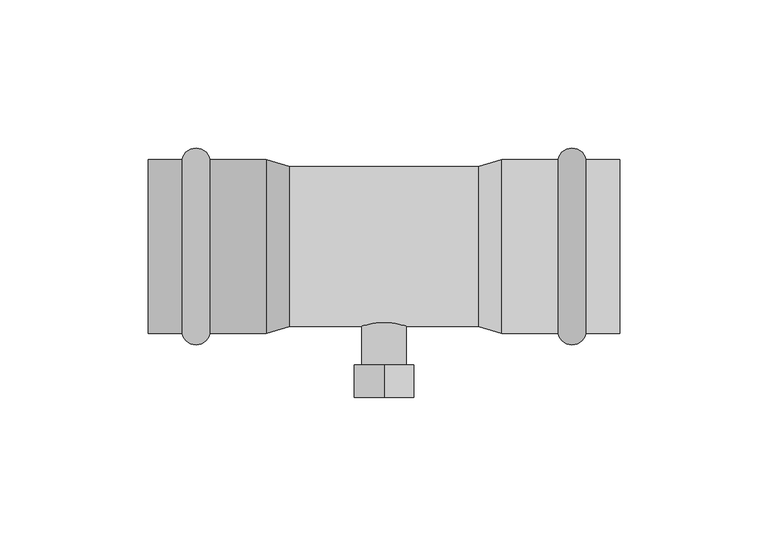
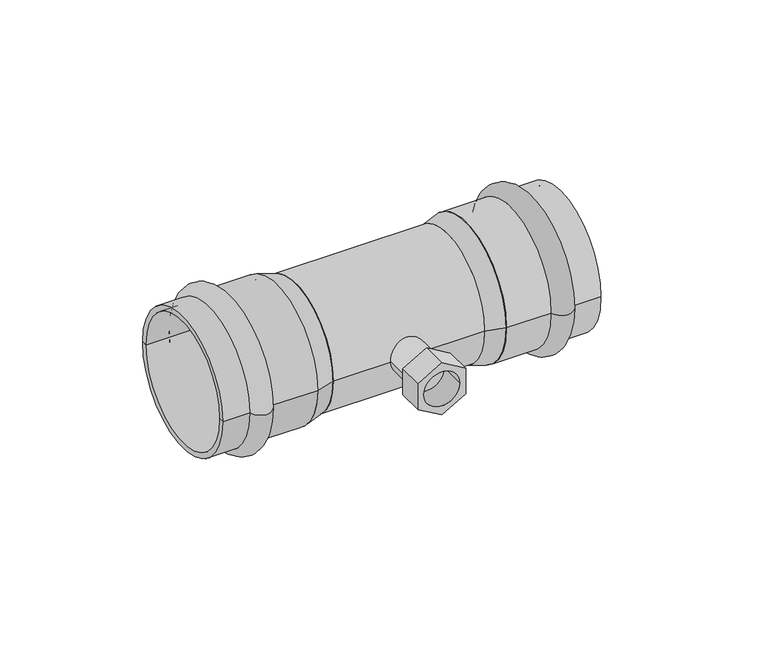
"""IFC4 building model written with IfcOpenShell, lengths in millimetres: pipe fitting geometry, VALTEC_VTi.932.I_Тройник с переходом на внутреннюю резьбу нержавеющая сталь : VTi.932.I."""

import ifcopenshell
import ifcopenshell.guid

model = None  # the IFC model being written
_history = None  # IfcOwnerHistory: only IFC2X3 demands one
_inside = {}  # id of a spatial element -> (the spatial element, [elements in it])
_under = {}  # id of a project, library or spatial element -> (it, [spatial elements below it])
_declared = {}  # id of a project -> (the project, [libraries it declares])
_typed = {}  # id of a type object -> (the type object, [elements of that type])
_made_of = {}  # id of a material, layer set ... -> (it, [elements and type objects made of it])


def new_model(schema):
    """Start an empty IFC model of exactly this schema.

    Asked for "IFC4X3", IfcOpenShell would pick the latest addendum, in which some entities
    have other attributes; the version numbers below select the first issue.
    IFC2X3 requires an IfcOwnerHistory on every rooted entity: one is made here for all.
    """
    global model, _history
    if schema == "IFC4X3":
        model = ifcopenshell.file(schema_version=(4, 3, 0, 0))
    else:
        model = ifcopenshell.file(schema=schema)
    _inside.clear()
    _under.clear()
    _declared.clear()
    _typed.clear()
    _made_of.clear()
    _history = None
    if model.schema == "IFC2X3":
        org = make("IfcOrganization", Name="unknown")
        user = make(
            "IfcPersonAndOrganization",
            ThePerson=make("IfcPerson", FamilyName="unknown"),
            TheOrganization=org,
        )
        app = make(
            "IfcApplication",
            ApplicationDeveloper=org,
            Version="unknown",
            ApplicationFullName="unknown",
            ApplicationIdentifier="unknown",
        )
        _history = make(
            "IfcOwnerHistory",
            OwningUser=user,
            OwningApplication=app,
            ChangeAction="ADDED",
            CreationDate=0,
        )
    return model


def make(cls, **values):
    """One entity of the class cls with the attributes given. An attribute that is None is left unset."""
    return model.create_entity(
        cls, **{name: value for name, value in values.items() if value is not None}
    )


def rooted(cls, **values):
    """An entity with a GlobalId (a new one), such as an element, a storey or a relation."""
    return make(cls, GlobalId=ifcopenshell.guid.new(), OwnerHistory=_history, **values)


def si_unit(unit_type, name, prefix=None):
    """IfcSIUnit, for example si_unit("LENGTHUNIT", "METRE", prefix="MILLI")."""
    return make("IfcSIUnit", UnitType=unit_type, Prefix=prefix, Name=name)


def assignment(units):
    """IfcUnitAssignment: the units of a project."""
    return None if units is None else make("IfcUnitAssignment", Units=units)


def point(xyz):
    """IfcCartesianPoint."""
    return None if xyz is None else make("IfcCartesianPoint", Coordinates=xyz)


def direction(xyz):
    """IfcDirection."""
    return None if xyz is None else make("IfcDirection", DirectionRatios=xyz)


def frame(location, z_axis=None, x_axis=None):
    """IfcAxis2Placement3D, a coordinate frame: its origin and axes. An axis left out is left unset."""
    return make(
        "IfcAxis2Placement3D",
        Location=point(location),
        Axis=direction(z_axis),
        RefDirection=direction(x_axis),
    )


def frame_2d(location, x_axis=None):
    """IfcAxis2Placement2D, a coordinate frame in the plane: its origin and x axis."""
    return make(
        "IfcAxis2Placement2D", Location=point(location), RefDirection=direction(x_axis)
    )


def origin():
    """The frame at (0, 0, 0) with its axes left unset."""
    return frame((0.0, 0.0, 0.0))


def origin_2d():
    """The frame at (0, 0) in the plane with its x axis left unset."""
    return frame_2d((0.0, 0.0))


def place(relative_to, where):
    """IfcLocalPlacement: puts the frame where relative to a parent placement (None: the world)."""
    return make(
        "IfcLocalPlacement", PlacementRelTo=relative_to, RelativePlacement=where
    )


def context(
    kind, dimensions, precision=None, world=None, true_north=None, identifier=None
):
    """IfcGeometricRepresentationContext, for example the 3D "Model" context."""
    return make(
        "IfcGeometricRepresentationContext",
        ContextIdentifier=identifier,
        ContextType=kind,
        CoordinateSpaceDimension=dimensions,
        Precision=precision,
        WorldCoordinateSystem=world,
        TrueNorth=true_north,
    )


def project(units=None, contexts=None):
    """IfcProject with its units and contexts."""
    return rooted(
        "IfcProject",
        Name="project",
        RepresentationContexts=contexts,
        UnitsInContext=assignment(units),
    )


def spatial(cls, under=None, at=None, **own):
    """A site, building, storey or space (cls), placed at a placement, below another one or the project."""
    s = rooted(cls, ObjectPlacement=at, **own)
    if under is not None:
        _under.setdefault(under.id(), (under, []))[1].append(s)
    return s


def polyline(points):
    """IfcPolyline through the points."""
    return make("IfcPolyline", Points=[point(p) for p in points])


def circle_curve(where, radius):
    """IfcCircle in the frame where."""
    return make("IfcCircle", Position=where, Radius=radius)


def ellipse_curve(where, semi_axis1, semi_axis2):
    """IfcEllipse in the frame where."""
    return make(
        "IfcEllipse", Position=where, SemiAxis1=semi_axis1, SemiAxis2=semi_axis2
    )


def trimmed(basis, trim1, trim2, sense, master):
    """IfcTrimmedCurve: the piece of a basis curve between two trims."""
    return make(
        "IfcTrimmedCurve",
        BasisCurve=basis,
        Trim1=trim1,
        Trim2=trim2,
        SenseAgreement=sense,
        MasterRepresentation=master,
    )


def segment(curve, same_sense, transition):
    """IfcCompositeCurveSegment."""
    return make(
        "IfcCompositeCurveSegment",
        Transition=transition,
        SameSense=same_sense,
        ParentCurve=curve,
    )


def composite_curve(segments, self_intersect=None):
    """IfcCompositeCurve: segments joined end to end."""
    return make("IfcCompositeCurve", Segments=segments, SelfIntersect=self_intersect)


def outline(outer, holes=None, kind="AREA"):
    """IfcArbitraryClosedProfileDef: a profile drawn as a closed curve; with holes, ...WithVoids."""
    if holes is None:
        return make("IfcArbitraryClosedProfileDef", ProfileType=kind, OuterCurve=outer)
    return make(
        "IfcArbitraryProfileDefWithVoids",
        ProfileType=kind,
        OuterCurve=outer,
        InnerCurves=holes,
    )


def extrude(swept, where, along, depth):
    """IfcExtrudedAreaSolid: the profile swept, set in the frame where, extruded along a direction by depth."""
    return make(
        "IfcExtrudedAreaSolid",
        SweptArea=swept,
        Position=where,
        ExtrudedDirection=direction(along),
        Depth=depth,
    )


def shape(context_of_items, identifier, shape_type, items):
    """IfcShapeRepresentation: the items that make up one representation, for example the "Body"."""
    return make(
        "IfcShapeRepresentation",
        ContextOfItems=context_of_items,
        RepresentationIdentifier=identifier,
        RepresentationType=shape_type,
        Items=items,
    )


def source(mapping_origin, context_of_items, identifier, shape_type, items):
    """IfcRepresentationMap: a shape defined once, which mapped items show again and again."""
    return make(
        "IfcRepresentationMap",
        MappingOrigin=mapping_origin,
        MappedRepresentation=shape(context_of_items, identifier, shape_type, items),
    )


def transform(
    local_origin,
    x_axis=None,
    y_axis=None,
    z_axis=None,
    scale=None,
    scale2=None,
    scale3=None,
    uniform=True,
):
    """IfcCartesianTransformationOperator3D, or its non-uniform kind. x_axis, y_axis, z_axis: its Axis1, 2, 3."""
    if uniform:
        return make(
            "IfcCartesianTransformationOperator3D",
            Axis1=direction(x_axis),
            Axis2=direction(y_axis),
            LocalOrigin=point(local_origin),
            Scale=scale,
            Axis3=direction(z_axis),
        )
    return make(
        "IfcCartesianTransformationOperator3DnonUniform",
        Axis1=direction(x_axis),
        Axis2=direction(y_axis),
        LocalOrigin=point(local_origin),
        Scale=scale,
        Axis3=direction(z_axis),
        Scale2=scale2,
        Scale3=scale3,
    )


def mapped(mapping_source, mapping_target):
    """IfcMappedItem: shows the shape of a source again, moved by a transform."""
    return make(
        "IfcMappedItem", MappingSource=mapping_source, MappingTarget=mapping_target
    )


def made_of(thing, what):
    """Note that an element or type object is made of a material, layer set ...; save() writes the relation."""
    if what is not None:
        _made_of.setdefault(what.id(), (what, []))[1].append(thing)
    return thing


def element(
    cls,
    number,
    at=None,
    inside=None,
    cuts=None,
    type_object=None,
    material=None,
    context=None,
    identifier="Body",
    shape_type=None,
    held_by="IfcProductDefinitionShape",
    body=None,
    shapes=None,
    **own,
):
    """One element of the class cls, such as IfcWall. Its Tag is "e" and its number.

    at: its placement. inside: the storey or other place that contains it. cuts: it is an
    opening in that element (IfcRelVoidsElement). A single representation is given by context,
    identifier, shape_type and body (its items); several are given by shapes. held_by: the class
    of the entity that holds the representations. save() writes the other relations.
    """
    e = rooted(cls, Tag="e%d" % number, ObjectPlacement=at, **own)
    if body is not None:
        shapes = [shape(context, identifier, shape_type, body)]
    if shapes is not None:
        e.Representation = make(held_by, Representations=shapes)
    if inside is not None:
        _inside.setdefault(inside.id(), (inside, []))[1].append(e)
    if cuts is not None:
        rooted(
            "IfcRelVoidsElement", RelatingBuildingElement=cuts, RelatedOpeningElement=e
        )
    if type_object is not None:
        _typed.setdefault(type_object.id(), (type_object, []))[1].append(e)
    return made_of(e, material)


def aggregate(whole, parts):
    """IfcRelAggregates: a whole, such as a stair, and the parts it consists of."""
    return rooted("IfcRelAggregates", RelatingObject=whole, RelatedObjects=parts)


def save(model, path):
    """Write the relations noted so far, then the file.

    IfcRelAggregates (storeys below a building ...), IfcRelContainedInSpatialStructure (elements
    in a storey), IfcRelDefinesByType, IfcRelAssociatesMaterial and IfcRelDeclares: one each for
    every whole, place, type object, material and project.
    """
    for whole, parts in _under.values():
        aggregate(whole, parts)
    for where, things in _inside.values():
        rooted(
            "IfcRelContainedInSpatialStructure",
            RelatedElements=things,
            RelatingStructure=where,
        )
    for kind, things in _typed.values():
        rooted("IfcRelDefinesByType", RelatedObjects=things, RelatingType=kind)
    for what, things in _made_of.values():
        rooted("IfcRelAssociatesMaterial", RelatedObjects=things, RelatingMaterial=what)
    for by, libraries in _declared.values():
        rooted("IfcRelDeclares", RelatingContext=by, RelatedDefinitions=libraries)
    model.write(path)


def plane_surface(at):
    """IfcPlane: the flat surface through the origin of the frame at, square to its z axis."""
    return make("IfcPlane", Position=at)


def cylinder_surface(at, radius):
    """IfcCylindricalSurface: all points at the distance radius from the z axis of the frame at."""
    return make("IfcCylindricalSurface", Position=at, Radius=radius)


def revolved_surface(curve, axis_point, axis_direction):
    """IfcSurfaceOfRevolution: the curve turned about the line through axis_point along axis_direction."""
    return make(
        "IfcSurfaceOfRevolution",
        SweptCurve=make("IfcArbitraryOpenProfileDef", ProfileType="CURVE", Curve=curve),
        AxisPosition=make("IfcAxis1Placement", Location=point(axis_point), Axis=direction(axis_direction)),
    )


def advanced_brep(points, edges, surfaces, faces):
    """IfcAdvancedBrep: a solid bounded by faces that lie on surfaces and meet in shared edges.

    An edge is (start, end): straight between two places in points (the first is 0);
    or (start, end, curve); or (start, end, curve, False) where it runs against its curve.
    A face is (place in surfaces, loops), or (place, loops, False) where it looks against
    its surface's normal. A loop lists edges by number (the first is 1), with a minus sign
    where the edge is run from its end to its start. The first loop is the outer one.
    """
    corners = [point(p) for p in points]
    vertices = [make("IfcVertexPoint", VertexGeometry=c) for c in corners]
    made = []
    for start, end, *more in edges:
        made.append(
            make(
                "IfcEdgeCurve",
                EdgeStart=vertices[start],
                EdgeEnd=vertices[end],
                EdgeGeometry=more[0] if more else make("IfcPolyline", Points=[corners[start], corners[end]]),
                SameSense=more[1] if len(more) > 1 else True,
            )
        )
    hull = []
    for where, loops, *sense in faces:
        bounds = []
        for j, loop in enumerate(loops):
            ring = [make("IfcOrientedEdge", EdgeElement=made[abs(k) - 1], Orientation=k > 0) for k in loop]
            bounds.append(
                make(
                    "IfcFaceOuterBound" if j == 0 else "IfcFaceBound",
                    Bound=make("IfcEdgeLoop", EdgeList=ring),
                    Orientation=True,
                )
            )
        hull.append(make("IfcAdvancedFace", Bounds=bounds, FaceSurface=surfaces[where], SameSense=sense[0] if sense else True))
    return make("IfcAdvancedBrep", Outer=make("IfcClosedShell", CfsFaces=hull))


def pipe_fitting_01ebce86(model_context):
    return source(origin(), model_context, "Body", "SolidModel", [
        advanced_brep(
        [(68.1148701, 29.3, 0.0), (68.1148701, -29.3, 0.0), (58.6851299, -29.3, 0.0), (58.6851299, 29.3, 0.0), (79.5, 29.3, 0.0), (79.5, -29.3, 0.0), (79.5, 27.0, 0.0), (79.5, -27.0, 0.0), (39.75, 27.0, 0.0), (39.75, -27.0, 0.0), (39.75, 29.3, 0.0), (39.75, -29.3, 0.0)],
        [
            (0, 1, circle_curve(frame((68.1148701, 0.0, 0.0), z_axis=(-1.0, 0.0, 0.0), x_axis=(0.0, -1.0, 0.0)), 29.3)),
            (1, 2, circle_curve(frame((63.4, -28.4, 0.0), z_axis=(0.0, 0.0, -1.0), x_axis=(-1.0, 0.0, 0.0)), 4.8)),
            (2, 3, circle_curve(frame((58.6851299, 0.0, 0.0), z_axis=(1.0, 0.0, 0.0), x_axis=(0.0, -1.0, 0.0)), 29.3)),
            (3, 0, circle_curve(frame((63.4, 28.4, 0.0), z_axis=(0.0, 0.0, -1.0), x_axis=(-1.0, 0.0, 0.0)), 4.8)),
            (1, 0, circle_curve(frame((68.1148701, 0.0, 0.0), z_axis=(-1.0, 0.0, 0.0), x_axis=(0.0, -1.0, 0.0)), 29.3)),
            (3, 2, circle_curve(frame((58.6851299, 0.0, 0.0), z_axis=(1.0, 0.0, 0.0), x_axis=(0.0, -1.0, 0.0)), 29.3)),
            (4, 5, circle_curve(frame((79.5, 0.0, 0.0), z_axis=(-1.0, 0.0, 0.0), x_axis=(0.0, -1.0, 0.0)), 29.3)),
            (5, 1),
            (0, 4),
            (5, 4, circle_curve(frame((79.5, 0.0, 0.0), z_axis=(-1.0, 0.0, 0.0), x_axis=(0.0, -1.0, 0.0)), 29.3)),
            (6, 7, circle_curve(frame((79.5, 0.0, 0.0), z_axis=(-1.0, 0.0, 0.0), x_axis=(0.0, -1.0, 0.0)), 27.0)),
            (7, 5),
            (4, 6),
            (7, 6, circle_curve(frame((79.5, 0.0, 0.0), z_axis=(-1.0, 0.0, 0.0), x_axis=(0.0, -1.0, 0.0)), 27.0)),
            (8, 9, circle_curve(frame((39.75, 0.0, 0.0), z_axis=(-1.0, 0.0, 0.0), x_axis=(0.0, -1.0, 0.0)), 27.0)),
            (9, 7),
            (6, 8),
            (9, 8, circle_curve(frame((39.75, 0.0, 0.0), z_axis=(-1.0, 0.0, 0.0), x_axis=(0.0, -1.0, 0.0)), 27.0)),
            (10, 11, circle_curve(frame((39.75, 0.0, 0.0), z_axis=(-1.0, 0.0, 0.0), x_axis=(0.0, -1.0, 0.0)), 29.3)),
            (11, 9),
            (8, 10),
            (11, 10, circle_curve(frame((39.75, 0.0, 0.0), z_axis=(-1.0, 0.0, 0.0), x_axis=(0.0, -1.0, 0.0)), 29.3)),
            (2, 11),
            (10, 3),
        ],
        [
            revolved_surface(trimmed(ellipse_curve(frame((63.4, -28.4, 0.0), z_axis=(0.0, 0.0, 1.0), x_axis=(-1.0, 0.0, 0.0)), 4.8, 4.8), [point((58.6851299, -29.3, 0.0))], [point((68.1148701, -29.3, 0.0))], True, "CARTESIAN"), (83.0364426, 0.0, 0.0), (1.0, 0.0, 0.0)),
            cylinder_surface(frame((83.0364426, 0.0, 0.0), z_axis=(1.0, 0.0, 0.0), x_axis=(0.0, -1.0, 0.0)), 29.3),
            plane_surface(frame((79.5, 0.0, 0.0), z_axis=(1.0, 0.0, 0.0), x_axis=(0.0, -1.0, 0.0))),
            revolved_surface(polyline([(79.5, -27.0, 0.0), (39.75, -27.0, 0.0)]), (83.0364426, 0.0, 0.0), (1.0, 0.0, 0.0)),
            plane_surface(frame((39.75, 0.0, 0.0), z_axis=(-1.0, 0.0, 0.0), x_axis=(0.0, -1.0, 0.0))),
        ],
        [
            (0, [[1, 2, 3, 4]]),
            (0, [[5, -4, 6, -2]]),
            (1, [[7, 8, -1, 9]]),
            (1, [[10, -9, -5, -8]]),
            (2, [[11, 12, -7, 13]]),
            (2, [[14, -13, -10, -12]]),
            (3, [[15, 16, -11, 17]]),
            (3, [[18, -17, -14, -16]]),
            (4, [[19, 20, -15, 21]]),
            (4, [[22, -21, -18, -20]]),
            (1, [[-3, 23, -19, 24]]),
            (1, [[-6, -24, -22, -23]]),
        ],
    ),
        advanced_brep(
        [(-68.1148701, -29.3, 0.0), (-68.1148701, 29.3, 0.0), (-58.6851299, 29.3, 0.0), (-58.6851299, -29.3, 0.0), (-79.5, -29.3, 0.0), (-79.5, 29.3, 0.0), (-79.5, -27.0, 0.0), (-79.5, 27.0, 0.0), (-39.75, -27.0, 0.0), (-39.75, 27.0, 0.0), (-39.75, -29.3, 0.0), (-39.75, 29.3, 0.0)],
        [
            (0, 1, circle_curve(frame((-68.1148701, 0.0, 0.0), z_axis=(1.0, 0.0, 0.0), x_axis=(0.0, 1.0, 0.0)), 29.3)),
            (1, 2, circle_curve(frame((-63.4, 28.4, 0.0), z_axis=(0.0, 0.0, -1.0), x_axis=(1.0, 0.0, 0.0)), 4.8)),
            (2, 3, circle_curve(frame((-58.6851299, 0.0, 0.0), z_axis=(-1.0, 0.0, 0.0), x_axis=(0.0, 1.0, 0.0)), 29.3)),
            (3, 0, circle_curve(frame((-63.4, -28.4, 0.0), z_axis=(0.0, 0.0, -1.0), x_axis=(1.0, 0.0, 0.0)), 4.8)),
            (1, 0, circle_curve(frame((-68.1148701, 0.0, 0.0), z_axis=(1.0, 0.0, 0.0), x_axis=(0.0, 1.0, 0.0)), 29.3)),
            (3, 2, circle_curve(frame((-58.6851299, 0.0, 0.0), z_axis=(-1.0, 0.0, 0.0), x_axis=(0.0, 1.0, 0.0)), 29.3)),
            (4, 5, circle_curve(frame((-79.5, 0.0, 0.0), z_axis=(1.0, 0.0, 0.0), x_axis=(0.0, 1.0, 0.0)), 29.3)),
            (5, 1),
            (0, 4),
            (5, 4, circle_curve(frame((-79.5, 0.0, 0.0), z_axis=(1.0, 0.0, 0.0), x_axis=(0.0, 1.0, 0.0)), 29.3)),
            (6, 7, circle_curve(frame((-79.5, 0.0, 0.0), z_axis=(1.0, 0.0, 0.0), x_axis=(0.0, 1.0, 0.0)), 27.0)),
            (7, 5),
            (4, 6),
            (7, 6, circle_curve(frame((-79.5, 0.0, 0.0), z_axis=(1.0, 0.0, 0.0), x_axis=(0.0, 1.0, 0.0)), 27.0)),
            (8, 9, circle_curve(frame((-39.75, 0.0, 0.0), z_axis=(1.0, 0.0, 0.0), x_axis=(0.0, 1.0, 0.0)), 27.0)),
            (9, 7),
            (6, 8),
            (9, 8, circle_curve(frame((-39.75, 0.0, 0.0), z_axis=(1.0, 0.0, 0.0), x_axis=(0.0, 1.0, 0.0)), 27.0)),
            (10, 11, circle_curve(frame((-39.75, 0.0, 0.0), z_axis=(1.0, 0.0, 0.0), x_axis=(0.0, 1.0, 0.0)), 29.3)),
            (11, 9),
            (8, 10),
            (11, 10, circle_curve(frame((-39.75, 0.0, 0.0), z_axis=(1.0, 0.0, 0.0), x_axis=(0.0, 1.0, 0.0)), 29.3)),
            (2, 11),
            (10, 3),
        ],
        [
            revolved_surface(trimmed(ellipse_curve(frame((-63.4, 28.4, 0.0), z_axis=(0.0, 0.0, 1.0), x_axis=(1.0, 0.0, 0.0)), 4.8, 4.8), [point((-58.6851299, 29.3, 0.0))], [point((-68.1148701, 29.3, 0.0))], True, "CARTESIAN"), (-83.0364426, 0.0, 0.0), (-1.0, 0.0, 0.0)),
            cylinder_surface(frame((-83.0364426, 0.0, 0.0), z_axis=(-1.0, 0.0, 0.0), x_axis=(0.0, 1.0, 0.0)), 29.3),
            plane_surface(frame((-79.5, 0.0, 0.0), z_axis=(-1.0, 0.0, 0.0), x_axis=(0.0, 1.0, 0.0))),
            revolved_surface(polyline([(-79.5, 27.0, 0.0), (-39.75, 27.0, 0.0)]), (-83.0364426, 0.0, 0.0), (-1.0, 0.0, 0.0)),
            plane_surface(frame((-39.75, 0.0, 0.0), z_axis=(1.0, 0.0, 0.0), x_axis=(0.0, 1.0, 0.0))),
        ],
        [
            (0, [[1, 2, 3, 4]]),
            (0, [[5, -4, 6, -2]]),
            (1, [[7, 8, -1, 9]]),
            (1, [[10, -9, -5, -8]]),
            (2, [[11, 12, -7, 13]]),
            (2, [[14, -13, -10, -12]]),
            (3, [[15, 16, -11, 17]]),
            (3, [[18, -17, -14, -16]]),
            (4, [[19, 20, -15, 21]]),
            (4, [[22, -21, -18, -20]]),
            (1, [[-3, 23, -19, 24]]),
            (1, [[-6, -24, -22, -23]]),
        ],
    ),
        extrude(outline(polyline([(11.5470054, 0.0), (5.7735027, -10.0), (-5.7735027, -10.0), (-11.5470054, 0.0), (-5.7735027, 10.0), (5.7735027, 10.0), (11.5470054, 0.0)]), holes=[composite_curve([segment(trimmed(circle_curve(origin_2d(), 7.5), [point((0.0, -7.5))], [point((0.0, 7.5))], True, "CARTESIAN"), True, "CONTINUOUS"), segment(trimmed(circle_curve(origin_2d(), 7.5), [point((0.0, 7.5))], [point((0.0, -7.5))], True, "CARTESIAN"), True, "CONTINUOUS")], self_intersect=False)]), frame((0.0, -51.0, 0.0), z_axis=(0.0, 1.0, 0.0), x_axis=(0.0, 0.0, 1.0)), (0.0, 0.0, 1.0), 11.0),
        extrude(outline(composite_curve([segment(trimmed(circle_curve(origin_2d(), 7.5), [point((0.0, -7.5))], [point((0.0, 7.5))], False, "CARTESIAN"), True, "CONTINUOUS"), segment(trimmed(circle_curve(origin_2d(), 7.5), [point((0.0, 7.5))], [point((0.0, -7.5))], False, "CARTESIAN"), True, "CONTINUOUS")], self_intersect=False)), frame((0.0, -40.0, 0.0), z_axis=(0.0, 1.0, 0.0), x_axis=(0.0, 0.0, 1.0)), (0.0, 0.0, 1.0), 40.0),
        extrude(outline(composite_curve([segment(trimmed(circle_curve(origin_2d(), 27.0), [point((-27.0, 0.0))], [point((27.0, 0.0))], False, "CARTESIAN"), True, "CONTINUOUS"), segment(trimmed(circle_curve(origin_2d(), 27.0), [point((27.0, 0.0))], [point((-27.0, 0.0))], False, "CARTESIAN"), True, "CONTINUOUS")], self_intersect=False)), frame((-31.8, 0.0, 0.0), z_axis=(1.0, 0.0, 0.0), x_axis=(0.0, 1.0, 0.0)), (0.0, 0.0, 1.0), 63.6),
        advanced_brep(
        [(39.75, -29.3, 0.0), (39.75, 29.3, 0.0), (31.8, -27.0, 0.0), (31.8, 27.0, 0.0)],
        [
            (0, 1, circle_curve(frame((39.75, 0.0, 0.0), z_axis=(1.0, 0.0, 0.0), x_axis=(0.0, -1.0, 0.0)), 29.3)),
            (1, 0, circle_curve(frame((39.75, 0.0, 0.0), z_axis=(1.0, 0.0, 0.0), x_axis=(0.0, 1.0, 0.0)), 29.3)),
            (2, 3, circle_curve(frame((31.8, 0.0, 0.0), z_axis=(-1.0, 0.0, 0.0), x_axis=(0.0, 1.0, 0.0)), 27.0)),
            (3, 2, circle_curve(frame((31.8, 0.0, 0.0), z_axis=(-1.0, 0.0, 0.0), x_axis=(0.0, -1.0, 0.0)), 27.0)),
            (3, 1),
            (0, 2),
        ],
        [
            plane_surface(frame((39.75, 0.0, 0.0), z_axis=(1.0, 0.0, 0.0), x_axis=(0.0, 0.0, 1.0))),
            plane_surface(frame((31.8, 0.0, 0.0), z_axis=(-1.0, 0.0, 0.0), x_axis=(0.0, 0.0, 1.0))),
            revolved_surface(polyline([(31.800000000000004, 27.000000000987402, 0.0), (39.74999999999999, 29.3, 0.0)]), (-61.526087, 0.0, 0.0), (1.0, 0.0, 0.0)),
            revolved_surface(polyline([(31.800000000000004, -27.000000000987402, 0.0), (39.74999999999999, -29.3, 0.0)]), (-61.526087, 0.0, 0.0), (1.0, 0.0, 0.0)),
        ],
        [
            (0, [[1, 2]]),
            (1, [[3, 4]]),
            (2, [[-4, 5, -1, 6]]),
            (3, [[-3, -6, -2, -5]]),
        ],
    ),
        advanced_brep(
        [(-39.75, -29.3, 0.0), (-39.75, 29.3, 0.0), (-31.8, -27.0, 0.0), (-31.8, 27.0, 0.0)],
        [
            (0, 1, circle_curve(frame((-39.75, 0.0, 0.0), z_axis=(-1.0, 0.0, 0.0), x_axis=(0.0, -1.0, 0.0)), 29.3)),
            (1, 0, circle_curve(frame((-39.75, 0.0, 0.0), z_axis=(-1.0, 0.0, 0.0), x_axis=(0.0, 1.0, 0.0)), 29.3)),
            (2, 3, circle_curve(frame((-31.8, 0.0, 0.0), z_axis=(1.0, 0.0, 0.0), x_axis=(0.0, 1.0, 0.0)), 27.0)),
            (3, 2, circle_curve(frame((-31.8, 0.0, 0.0), z_axis=(1.0, 0.0, 0.0), x_axis=(0.0, -1.0, 0.0)), 27.0)),
            (2, 0),
            (1, 3),
        ],
        [
            plane_surface(frame((-39.75, 0.0, 0.0), z_axis=(-1.0, 0.0, 0.0), x_axis=(0.0, 0.0, -1.0))),
            plane_surface(frame((-31.8, 0.0, 0.0), z_axis=(1.0, 0.0, 0.0), x_axis=(0.0, 0.0, -1.0))),
            revolved_surface(polyline([(-31.800000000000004, -27.000000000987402, 0.0), (-39.74999999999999, -29.3, 0.0)]), (61.526087, 0.0, 0.0), (-1.0, 0.0, 0.0)),
            revolved_surface(polyline([(-31.800000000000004, 27.000000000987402, 0.0), (-39.74999999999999, 29.3, 0.0)]), (61.526087, 0.0, 0.0), (-1.0, 0.0, 0.0)),
        ],
        [
            (0, [[1, 2]]),
            (1, [[3, 4]]),
            (2, [[-3, 5, -2, 6]]),
            (3, [[-4, -6, -1, -5]]),
        ],
    ),
    ])


if __name__ == "__main__":
    model = new_model("IFC4")
    model_context = context("Model", 3, world=origin())
    ifc_project = project(units=[si_unit("LENGTHUNIT", "METRE", prefix="MILLI")], contexts=[model_context])
    site = spatial("IfcSite", under=ifc_project)
    building = spatial("IfcBuilding", under=site)
    placement = place(None, origin())
    pipe_fitting_shape = pipe_fitting_01ebce86(model_context)
    element("IfcPipeFitting", 1, ObjectType="VALTEC_VTi.932.I_Тройник с переходом на внутреннюю резьбу нержавеющая сталь : VTi.932.I", at=placement, inside=building, context=model_context, shape_type="MappedRepresentation", body=[
        mapped(pipe_fitting_shape, transform((0.0, 0.0, 0.0), x_axis=(1.0, 0.0, 0.0), y_axis=(0.0, 1.0, 0.0), z_axis=(0.0, 0.0, 1.0))),
    ])
    save(model, "model.ifc")
